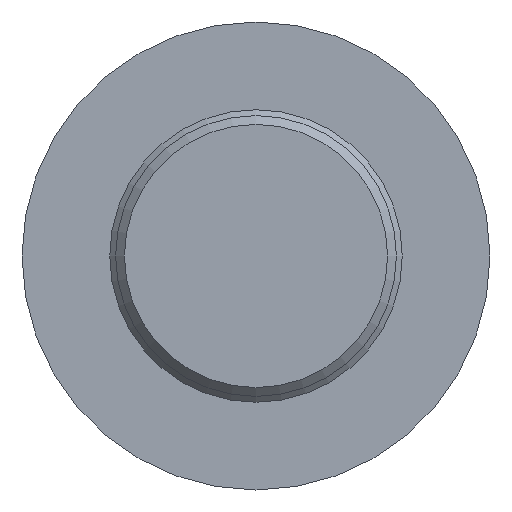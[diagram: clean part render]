
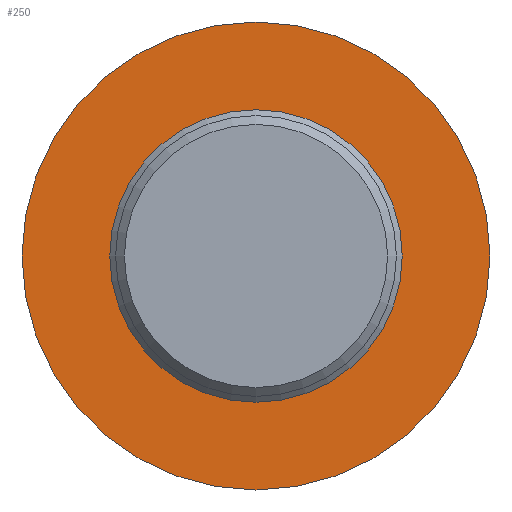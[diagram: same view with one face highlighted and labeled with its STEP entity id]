
A CAD part, front view. The second image highlights one B-rep face of the part: STEP entity #250.
In plain terms, the highlighted planar face has unit normal (0, -1, 0).
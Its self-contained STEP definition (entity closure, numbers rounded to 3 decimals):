
#17=FACE_BOUND('',#61,.T.);
#30=PLANE('',#303);
#43=FACE_OUTER_BOUND('',#60,.T.);
#60=EDGE_LOOP('',(#214,#215));
#61=EDGE_LOOP('',(#216,#217));
#100=CIRCLE('',#301,5.);
#101=CIRCLE('',#302,5.);
#102=CIRCLE('',#304,8.);
#103=CIRCLE('',#305,8.);
#126=VERTEX_POINT('',#456);
#127=VERTEX_POINT('',#457);
#128=VERTEX_POINT('',#462);
#129=VERTEX_POINT('',#463);
#157=EDGE_CURVE('',#126,#127,#100,.T.);
#158=EDGE_CURVE('',#127,#126,#101,.T.);
#160=EDGE_CURVE('',#128,#129,#102,.T.);
#161=EDGE_CURVE('',#129,#128,#103,.T.);
#214=ORIENTED_EDGE('',*,*,#160,.F.);
#215=ORIENTED_EDGE('',*,*,#161,.F.);
#216=ORIENTED_EDGE('',*,*,#157,.T.);
#217=ORIENTED_EDGE('',*,*,#158,.T.);
#250=ADVANCED_FACE('',(#43,#17),#30,.T.);
#301=AXIS2_PLACEMENT_3D('',#458,#375,#376);
#302=AXIS2_PLACEMENT_3D('',#459,#377,#378);
#303=AXIS2_PLACEMENT_3D('',#461,#380,#381);
#304=AXIS2_PLACEMENT_3D('',#464,#382,#383);
#305=AXIS2_PLACEMENT_3D('',#465,#384,#385);
#375=DIRECTION('center_axis',(0.,1.,0.));
#376=DIRECTION('ref_axis',(1.,0.,0.));
#377=DIRECTION('center_axis',(0.,1.,0.));
#378=DIRECTION('ref_axis',(1.,0.,0.));
#380=DIRECTION('center_axis',(0.,-1.,0.));
#381=DIRECTION('ref_axis',(0.,0.,-1.));
#382=DIRECTION('center_axis',(0.,1.,0.));
#383=DIRECTION('ref_axis',(1.,0.,0.));
#384=DIRECTION('center_axis',(0.,1.,0.));
#385=DIRECTION('ref_axis',(1.,0.,0.));
#456=CARTESIAN_POINT('',(0.,-1389.,5.));
#457=CARTESIAN_POINT('',(0.,-1389.,-5.));
#458=CARTESIAN_POINT('Origin',(0.,-1389.,0.));
#459=CARTESIAN_POINT('Origin',(0.,-1389.,0.));
#461=CARTESIAN_POINT('Origin',(0.,-1389.,8.));
#462=CARTESIAN_POINT('',(0.,-1389.,8.));
#463=CARTESIAN_POINT('',(0.,-1389.,-8.));
#464=CARTESIAN_POINT('Origin',(0.,-1389.,0.));
#465=CARTESIAN_POINT('Origin',(0.,-1389.,0.));
